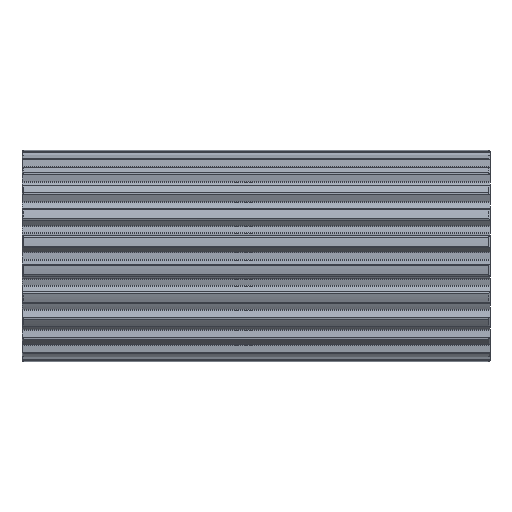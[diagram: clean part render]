
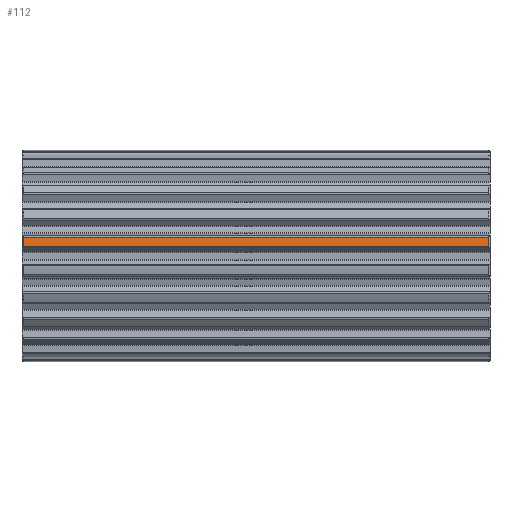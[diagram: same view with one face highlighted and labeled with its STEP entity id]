
A CAD part, front view. The second image highlights one B-rep face of the part: STEP entity #112.
In plain terms, the highlighted cylindrical face has radius 36.105 mm (diameter 72.21 mm), a partial arc.
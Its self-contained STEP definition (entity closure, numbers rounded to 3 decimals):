
#112=ADVANCED_FACE('',(#396),#397,.T.);
#396=FACE_OUTER_BOUND('',#890,.T.);
#397=CYLINDRICAL_SURFACE('',#891,36.105);
#890=EDGE_LOOP('',(#1612,#1613,#1614,#1615));
#891=AXIS2_PLACEMENT_3D('',#1616,#1617,#1618);
#1612=ORIENTED_EDGE('',*,*,#3657,.T.);
#1613=ORIENTED_EDGE('',*,*,#3658,.T.);
#1614=ORIENTED_EDGE('',*,*,#3659,.T.);
#1615=ORIENTED_EDGE('',*,*,#3660,.T.);
#1616=CARTESIAN_POINT('',(80.0,0.0,0.0));
#1617=DIRECTION('',(1.0,0.0,-0.0));
#1618=DIRECTION('',(0.0,0.136,0.991));
#3657=EDGE_CURVE('',#4525,#4534,#4536,.T.);
#3658=EDGE_CURVE('',#4534,#4537,#4538,.T.);
#3659=EDGE_CURVE('',#4537,#4539,#4540,.T.);
#3660=EDGE_CURVE('',#4539,#4525,#4541,.T.);
#4525=VERTEX_POINT('',#6457);
#4534=VERTEX_POINT('',#6491);
#4536=CIRCLE('',#6500,36.105);
#4537=VERTEX_POINT('',#6501);
#4538=LINE('',#6502,#6503);
#4539=VERTEX_POINT('',#6504);
#4540=CIRCLE('',#6505,36.105);
#4541=LINE('',#6506,#6507);
#6457=CARTESIAN_POINT('',(0.5,-35.521,6.47));
#6491=CARTESIAN_POINT('',(0.5,-35.949,3.353));
#6500=AXIS2_PLACEMENT_3D('',#8563,#8564,#8565);
#6501=CARTESIAN_POINT('',(159.5,-35.949,3.353));
#6502=CARTESIAN_POINT('',(80.0,-35.949,3.353));
#6503=VECTOR('',#8566,1.0);
#6504=CARTESIAN_POINT('',(159.5,-35.521,6.47));
#6505=AXIS2_PLACEMENT_3D('',#8567,#8568,#8569);
#6506=CARTESIAN_POINT('',(80.0,-35.521,6.47));
#6507=VECTOR('',#8570,1.0);
#8563=CARTESIAN_POINT('',(0.5,0.0,0.0));
#8564=DIRECTION('',(1.0,0.0,0.));
#8565=DIRECTION('',(0.,0.136,0.991));
#8566=DIRECTION('',(1.0,0.0,0.0));
#8567=CARTESIAN_POINT('',(159.5,0.0,0.0));
#8568=DIRECTION('',(-1.0,0.0,0.0));
#8569=DIRECTION('',(0.0,0.136,0.991));
#8570=DIRECTION('',(-1.0,0.0,0.0));
